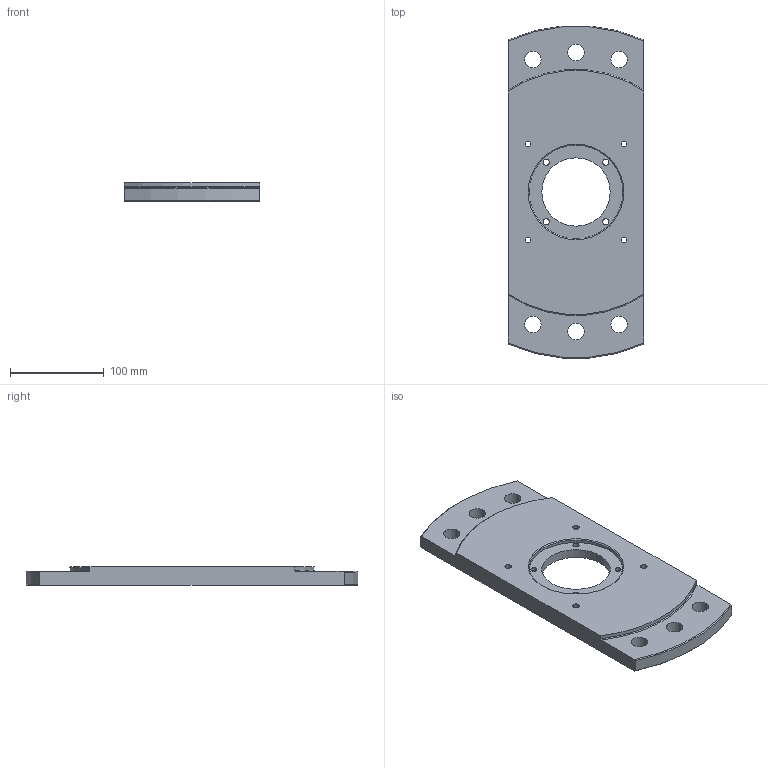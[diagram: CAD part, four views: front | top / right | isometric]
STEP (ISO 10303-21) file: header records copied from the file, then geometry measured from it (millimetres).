
FILE_DESCRIPTION (( 'STEP AP203' ), '1' );
FILE_NAME ('YWSD-2026-03-01-02=001 萇儂假蚾啣.STEP', '2026-07-24T07:30:38', ( 'Windows 蚚誧' ), ( '' ), 'SwSTEP 2.0', 'SolidWorks 2024', '' );
FILE_SCHEMA (( 'CONFIG_CONTROL_DESIGN' ));
Length unit declared in the file: millimetre
Products named in the file (1): YWSD-2026-03-01-02=001 电机安装板
Bounding box: 145 x 354.75 x 20 mm (x, y, z)
Volume: 773679.7 mm3; surface area: 119038 mm2
Topology: 1 solids, 1 shells, 76 faces, 192 edges, 124 vertices
Faces by surface type: cylinder 46, cone 18, plane 12
Entity records: 2479 total; most frequent: DIRECTION 444, CARTESIAN_POINT 429, ORIENTED_EDGE 384, EDGE_CURVE 192, AXIS2_PLACEMENT_3D 187, VERTEX_POINT 124, EDGE_LOOP 112, CIRCLE 110
